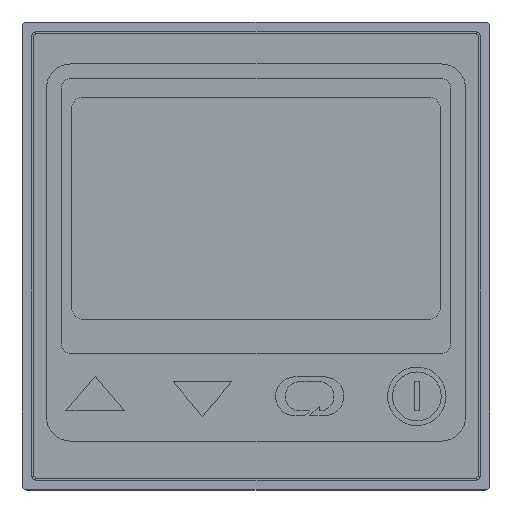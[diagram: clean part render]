
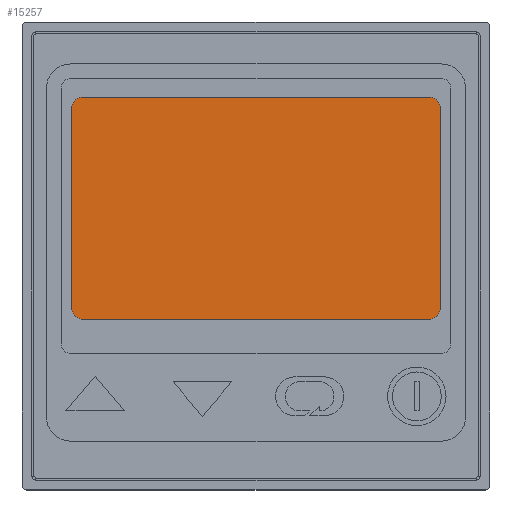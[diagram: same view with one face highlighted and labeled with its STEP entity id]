
A CAD part, top view. The second image highlights one B-rep face of the part: STEP entity #15257.
In plain terms, the highlighted planar face has unit normal (0, 0, 1).
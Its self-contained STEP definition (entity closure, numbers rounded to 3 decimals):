
#340 = LINE ( 'NONE', #14096, #18913 ) ;
#1073 = LINE ( 'NONE', #22559, #6788 ) ;
#1280 = VERTEX_POINT ( 'NONE', #10634 ) ;
#1483 = ORIENTED_EDGE ( 'NONE', *, *, #30024, .T. ) ;
#1751 = AXIS2_PLACEMENT_3D ( 'NONE', #28044, #20816, #6298 ) ;
#1958 = VERTEX_POINT ( 'NONE', #18711 ) ;
#2628 = FACE_OUTER_BOUND ( 'NONE', #20200, .T. ) ;
#2949 = ORIENTED_EDGE ( 'NONE', *, *, #28683, .T. ) ;
#4325 = DIRECTION ( 'NONE',  ( 0., 0., 1. ) ) ;
#4532 = CIRCLE ( 'NONE', #12292, 1.2 ) ;
#4687 = CARTESIAN_POINT ( 'NONE',  ( -17.7, 15.1, 6. ) ) ;
#5674 = EDGE_CURVE ( 'NONE', #23370, #1280, #10744, .T. ) ;
#6154 = AXIS2_PLACEMENT_3D ( 'NONE', #22321, #7802, #24774 ) ;
#6291 = ORIENTED_EDGE ( 'NONE', *, *, #5674, .T. ) ;
#6298 = DIRECTION ( 'NONE',  ( 1., 0., 0. ) ) ;
#6695 = LINE ( 'NONE', #30132, #25294 ) ;
#6788 = VECTOR ( 'NONE', #10484, 1000. ) ;
#7126 = DIRECTION ( 'NONE',  ( 1., 0., 0. ) ) ;
#7802 = DIRECTION ( 'NONE',  ( 0., 0., 1. ) ) ;
#8212 = DIRECTION ( 'NONE',  ( 0., 0., 1. ) ) ;
#8284 = DIRECTION ( 'NONE',  ( 0., -1., 0. ) ) ;
#8988 = CARTESIAN_POINT ( 'NONE',  ( -17.7, -6.5, 6. ) ) ;
#9240 = DIRECTION ( 'NONE',  ( 0., 1., 0. ) ) ;
#9412 = VERTEX_POINT ( 'NONE', #18304 ) ;
#10022 = VERTEX_POINT ( 'NONE', #13385 ) ;
#10180 = AXIS2_PLACEMENT_3D ( 'NONE', #4687, #21658, #7126 ) ;
#10247 = EDGE_CURVE ( 'NONE', #1280, #20877, #22601, .T. ) ;
#10484 = DIRECTION ( 'NONE',  ( 1., 0., 0. ) ) ;
#10634 = CARTESIAN_POINT ( 'NONE',  ( -17.7, 16.3, 6. ) ) ;
#10744 = LINE ( 'NONE', #20580, #16387 ) ;
#12292 = AXIS2_PLACEMENT_3D ( 'NONE', #18830, #4325, #21297 ) ;
#12479 = ORIENTED_EDGE ( 'NONE', *, *, #26009, .T. ) ;
#13316 = ORIENTED_EDGE ( 'NONE', *, *, #30331, .T. ) ;
#13385 = CARTESIAN_POINT ( 'NONE',  ( 18.9, 15.1, 6. ) ) ;
#14096 = CARTESIAN_POINT ( 'NONE',  ( 18.9, 15.1, 6. ) ) ;
#15257 = ADVANCED_FACE ( 'NONE', ( #2628 ), #30475, .T. ) ;
#16387 = VECTOR ( 'NONE', #25466, 1000. ) ;
#17546 = EDGE_CURVE ( 'NONE', #20877, #9412, #6695, .T. ) ;
#17620 = CARTESIAN_POINT ( 'NONE',  ( -18.9, 15.1, 6. ) ) ;
#17845 = CARTESIAN_POINT ( 'NONE',  ( 18.9, -5.3, 6. ) ) ;
#18304 = CARTESIAN_POINT ( 'NONE',  ( -18.9, -5.3, 6. ) ) ;
#18711 = CARTESIAN_POINT ( 'NONE',  ( 17.7, -6.5, 6. ) ) ;
#18727 = CARTESIAN_POINT ( 'NONE',  ( 17.7, 16.3, 6. ) ) ;
#18830 = CARTESIAN_POINT ( 'NONE',  ( 17.7, -5.3, 6. ) ) ;
#18913 = VECTOR ( 'NONE', #9240, 1000. ) ;
#20200 = EDGE_LOOP ( 'NONE', ( #2949, #6291, #26661, #27927, #27071, #13316, #1483, #12479 ) ) ;
#20580 = CARTESIAN_POINT ( 'NONE',  ( -17.7, 16.3, 6. ) ) ;
#20816 = DIRECTION ( 'NONE',  ( 0., 0., 1. ) ) ;
#20877 = VERTEX_POINT ( 'NONE', #17620 ) ;
#21297 = DIRECTION ( 'NONE',  ( 1., 0., 0. ) ) ;
#21658 = DIRECTION ( 'NONE',  ( 0., 0., 1. ) ) ;
#22321 = CARTESIAN_POINT ( 'NONE',  ( 17.7, 15.1, 6. ) ) ;
#22559 = CARTESIAN_POINT ( 'NONE',  ( -17.7, -6.5, 6. ) ) ;
#22563 = EDGE_CURVE ( 'NONE', #9412, #23340, #28002, .T. ) ;
#22601 = CIRCLE ( 'NONE', #10180, 1.2 ) ;
#22728 = CARTESIAN_POINT ( 'NONE',  ( -17.7, -5.3, 6. ) ) ;
#23340 = VERTEX_POINT ( 'NONE', #8988 ) ;
#23370 = VERTEX_POINT ( 'NONE', #18727 ) ;
#24774 = DIRECTION ( 'NONE',  ( 1., 0., 0. ) ) ;
#25171 = DIRECTION ( 'NONE',  ( 1., 0., 0. ) ) ;
#25294 = VECTOR ( 'NONE', #8284, 1000. ) ;
#25466 = DIRECTION ( 'NONE',  ( -1., 0., 0. ) ) ;
#26009 = EDGE_CURVE ( 'NONE', #27050, #10022, #340, .T. ) ;
#26661 = ORIENTED_EDGE ( 'NONE', *, *, #10247, .T. ) ;
#27050 = VERTEX_POINT ( 'NONE', #17845 ) ;
#27071 = ORIENTED_EDGE ( 'NONE', *, *, #22563, .T. ) ;
#27927 = ORIENTED_EDGE ( 'NONE', *, *, #17546, .T. ) ;
#27929 = AXIS2_PLACEMENT_3D ( 'NONE', #22728, #8212, #25171 ) ;
#28002 = CIRCLE ( 'NONE', #27929, 1.2 ) ;
#28044 = CARTESIAN_POINT ( 'NONE',  ( 17.7, 15.1, 6. ) ) ;
#28219 = CIRCLE ( 'NONE', #6154, 1.2 ) ;
#28683 = EDGE_CURVE ( 'NONE', #10022, #23370, #28219, .T. ) ;
#30024 = EDGE_CURVE ( 'NONE', #1958, #27050, #4532, .T. ) ;
#30132 = CARTESIAN_POINT ( 'NONE',  ( -18.9, 15.1, 6. ) ) ;
#30331 = EDGE_CURVE ( 'NONE', #23340, #1958, #1073, .T. ) ;
#30475 = PLANE ( 'NONE',  #1751 ) ;
